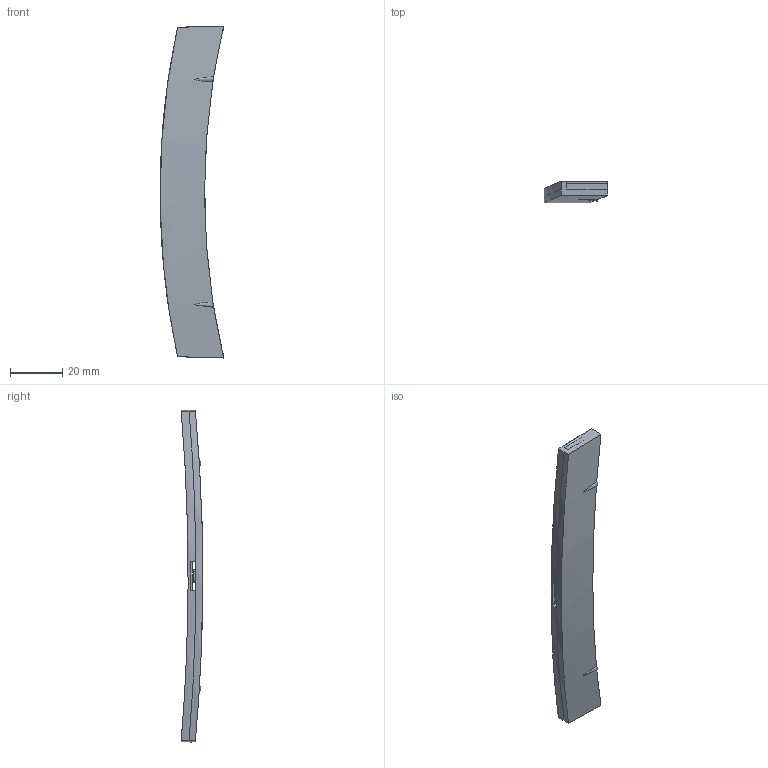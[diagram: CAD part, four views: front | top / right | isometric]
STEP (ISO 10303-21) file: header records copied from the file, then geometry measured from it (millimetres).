
FILE_DESCRIPTION (( 'STEP AP214' ), '1' );
FILE_NAME ('Lateral PP109.STEP', '2018-03-23T11:53:56', ( 'aaa' ), ( '' ), 'SwSTEP 2.0', 'SolidWorks 2013', '' );
FILE_SCHEMA (( 'AUTOMOTIVE_DESIGN' ));
Length unit declared in the file: millimetre
Products named in the file (1): Lateral PP109
Bounding box: 24.41 x 8.26 x 126.94 mm (x, y, z)
Volume: 5989.5 mm3; surface area: 6158.4 mm2
Topology: 1 solids, 1 shells, 52 faces, 134 edges, 86 vertices
Faces by surface type: plane 34, cylinder 11, bspline 5, cone 2
Entity records: 2063 total; most frequent: CARTESIAN_POINT 842, ORIENTED_EDGE 268, DIRECTION 205, EDGE_CURVE 134, LINE 87, VECTOR 87, VERTEX_POINT 86, AXIS2_PLACEMENT_3D 59
